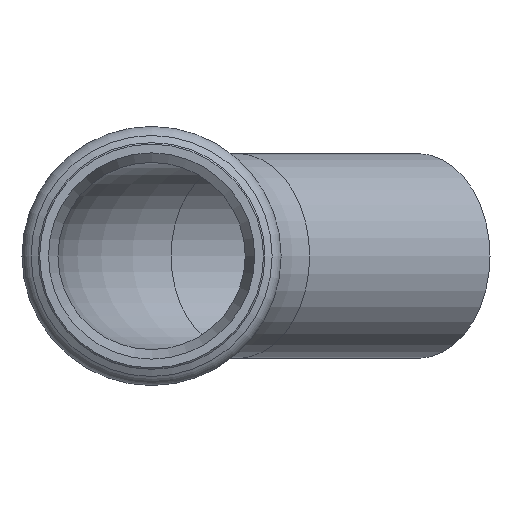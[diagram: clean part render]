
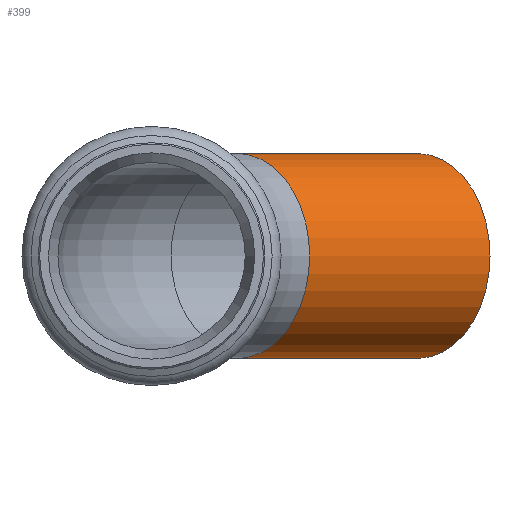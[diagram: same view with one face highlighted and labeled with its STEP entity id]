
A CAD part, left-side view. The second image highlights one B-rep face of the part: STEP entity #399.
In plain terms, the highlighted cylindrical face has radius 17.5 mm (diameter 35 mm), a full revolution.
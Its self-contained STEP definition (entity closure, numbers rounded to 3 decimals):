
#372=CARTESIAN_POINT('',(35.355,-14.645,0.0));
#373=DIRECTION('',(0.707,-0.707,0.0));
#374=DIRECTION('',(0.0,0.0,1.0));
#375=AXIS2_PLACEMENT_3D('',#372,#373,#374);
#376=CYLINDRICAL_SURFACE('',#375,17.5);
#377=CARTESIAN_POINT('',(66.178,-45.467,-17.5));
#378=VERTEX_POINT('',#377);
#379=CARTESIAN_POINT('',(66.178,-45.467,0.0));
#380=DIRECTION('',(-0.707,0.707,0.0));
#381=DIRECTION('',(0.0,0.0,1.0));
#382=AXIS2_PLACEMENT_3D('',#379,#380,#381);
#383=CIRCLE('',#382,17.5);
#384=EDGE_CURVE('',#378,#378,#383,.T.);
#385=ORIENTED_EDGE('',*,*,#384,.T.);
#386=EDGE_LOOP('',(#385));
#387=FACE_OUTER_BOUND('',#386,.T.);
#388=CARTESIAN_POINT('',(35.355,-14.645,-17.5));
#389=VERTEX_POINT('',#388);
#390=CARTESIAN_POINT('',(35.355,-14.645,0.0));
#391=DIRECTION('',(-0.707,0.707,0.0));
#392=DIRECTION('',(0.0,0.0,1.0));
#393=AXIS2_PLACEMENT_3D('',#390,#391,#392);
#394=CIRCLE('',#393,17.5);
#395=EDGE_CURVE('',#389,#389,#394,.T.);
#396=ORIENTED_EDGE('',*,*,#395,.F.);
#397=EDGE_LOOP('',(#396));
#398=FACE_BOUND('',#397,.T.);
#399=ADVANCED_FACE('',(#387,#398),#376,.T.);
